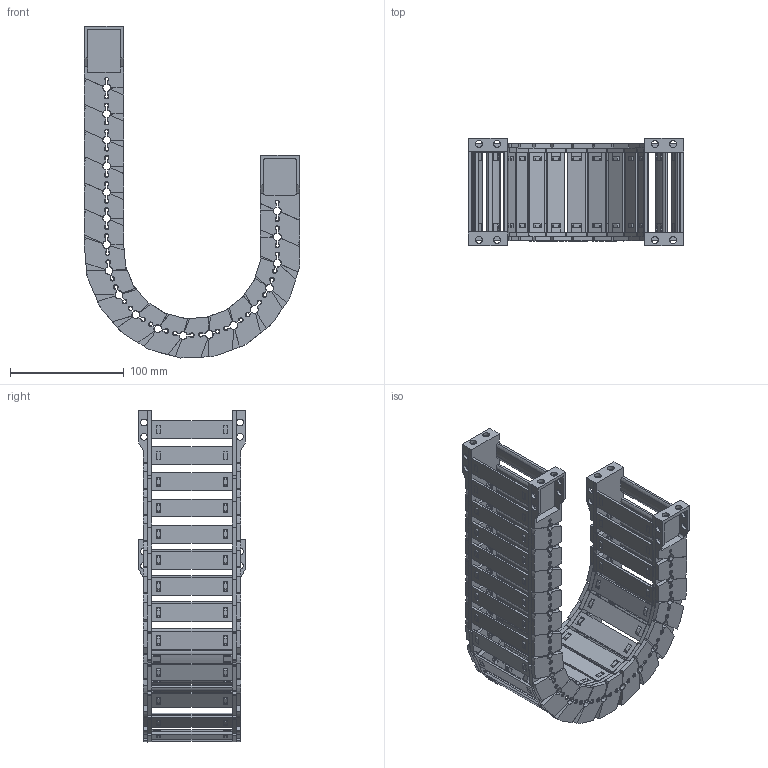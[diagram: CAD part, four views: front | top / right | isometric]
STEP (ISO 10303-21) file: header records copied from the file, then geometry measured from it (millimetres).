
FILE_DESCRIPTION(/* description */ (''),/* implementation_level */ '2;1');
FILE_NAME(/* name */ 'JY28-70-R75.stp',/* time_stamp */ '2026-06-03T15:43:30+08:00',/* author */ (''),/* organization */ (''),/* preprocessor_version */ 'ST-DEVELOPER v19.4',/* originating_system */ 'SIEMENS PLM Software NX2306.5001',/* authorisation */ '');
FILE_SCHEMA (('AP203_CONFIGURATION_CONTROLLED_3D_DESIGN_OF_MECHANICAL_PARTS_AND_ASSEMBLIES_MIM_LF { 1 0 10303 403 2 1 2}'));
Products named in the file (1): 简化图纸_objects
Bounding box: 189.55 x 94.5 x 292.17 mm (x, y, z)
Volume: 369463.3 mm3; surface area: 269217.4 mm2
Topology: 74 solids, 74 shells, 6194 faces, 17618 edges, 11518 vertices
Faces by surface type: plane 4058, cone 1120, cylinder 978, bspline 36, torus 2
Full cylindrical faces by diameter (mm): 6 x24
Entity records: 209461 total; most frequent: CARTESIAN_POINT 46487, ORIENTED_EDGE 35144, DIRECTION 33002, EDGE_CURVE 17572, LINE 11632, VECTOR 11632, VERTEX_POINT 11496, AXIS2_PLACEMENT_3D 10685
